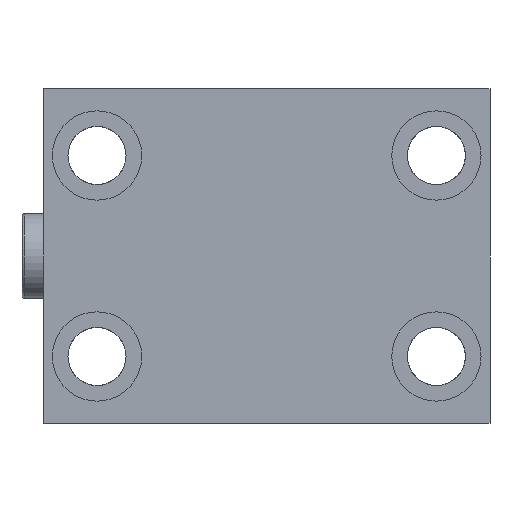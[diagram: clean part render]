
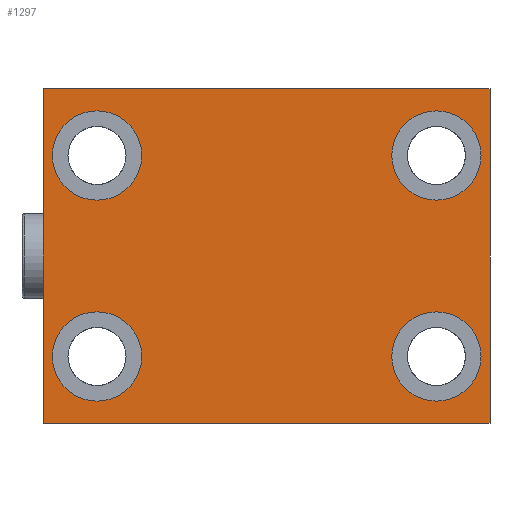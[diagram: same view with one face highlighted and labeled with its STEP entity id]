
A CAD part, front view. The second image highlights one B-rep face of the part: STEP entity #1297.
In plain terms, the highlighted planar face has unit normal (0, -1, 0).
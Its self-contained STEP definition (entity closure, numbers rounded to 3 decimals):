
#73 = AXIS2_PLACEMENT_3D ( 'NONE', #246, #2541, #2848 ) ;
#118 = LINE ( 'NONE', #2151, #1922 ) ;
#202 = CARTESIAN_POINT ( 'NONE',  ( 38., 0., 22.5 ) ) ;
#246 = CARTESIAN_POINT ( 'NONE',  ( -38., 0., 22.5 ) ) ;
#250 = EDGE_CURVE ( 'NONE', #3831, #2265, #998, .T. ) ;
#322 = DIRECTION ( 'NONE',  ( 0., 0., -1. ) ) ;
#365 = EDGE_LOOP ( 'NONE', ( #403, #888 ) ) ;
#379 = AXIS2_PLACEMENT_3D ( 'NONE', #3670, #3014, #2964 ) ;
#403 = ORIENTED_EDGE ( 'NONE', *, *, #1654, .F. ) ;
#440 = EDGE_CURVE ( 'NONE', #1388, #3574, #631, .T. ) ;
#485 = CIRCLE ( 'NONE', #2073, 10. ) ;
#563 = DIRECTION ( 'NONE',  ( 0., 0., -1. ) ) ;
#631 = CIRCLE ( 'NONE', #379, 10. ) ;
#704 = DIRECTION ( 'NONE',  ( 0., 0., 1. ) ) ;
#711 = VERTEX_POINT ( 'NONE', #2489 ) ;
#854 = CARTESIAN_POINT ( 'NONE',  ( 38., 0., -12.5 ) ) ;
#881 = CIRCLE ( 'NONE', #981, 10. ) ;
#883 = CARTESIAN_POINT ( 'NONE',  ( -38., 0., 22.5 ) ) ;
#888 = ORIENTED_EDGE ( 'NONE', *, *, #2045, .F. ) ;
#929 = DIRECTION ( 'NONE',  ( 0., -1., 0. ) ) ;
#977 = DIRECTION ( 'NONE',  ( 0., -1., 0. ) ) ;
#981 = AXIS2_PLACEMENT_3D ( 'NONE', #2942, #977, #3935 ) ;
#998 = LINE ( 'NONE', #2970, #3399 ) ;
#1001 = ORIENTED_EDGE ( 'NONE', *, *, #3362, .F. ) ;
#1160 = ORIENTED_EDGE ( 'NONE', *, *, #1723, .F. ) ;
#1202 = DIRECTION ( 'NONE',  ( 0., 1., 0. ) ) ;
#1297 = ADVANCED_FACE ( 'NONE', ( #3851, #2089, #2447, #3200, #4074 ), #2495, .F. ) ;
#1329 = CARTESIAN_POINT ( 'NONE',  ( 38., 0., -32.5 ) ) ;
#1355 = CIRCLE ( 'NONE', #73, 10. ) ;
#1359 = EDGE_CURVE ( 'NONE', #2520, #2197, #881, .T. ) ;
#1380 = VERTEX_POINT ( 'NONE', #1961 ) ;
#1388 = VERTEX_POINT ( 'NONE', #1329 ) ;
#1450 = VECTOR ( 'NONE', #704, 1000. ) ;
#1453 = EDGE_CURVE ( 'NONE', #4038, #711, #1666, .T. ) ;
#1484 = EDGE_LOOP ( 'NONE', ( #1001, #1160 ) ) ;
#1654 = EDGE_CURVE ( 'NONE', #2622, #1380, #1774, .T. ) ;
#1666 = LINE ( 'NONE', #2054, #1450 ) ;
#1709 = EDGE_CURVE ( 'NONE', #2265, #4038, #118, .T. ) ;
#1723 = EDGE_CURVE ( 'NONE', #4245, #2504, #485, .T. ) ;
#1774 = CIRCLE ( 'NONE', #3393, 10. ) ;
#1893 = ORIENTED_EDGE ( 'NONE', *, *, #1359, .F. ) ;
#1922 = VECTOR ( 'NONE', #3823, 1000. ) ;
#1943 = CARTESIAN_POINT ( 'NONE',  ( -38., 0., -32.5 ) ) ;
#1961 = CARTESIAN_POINT ( 'NONE',  ( -38., 0., 32.5 ) ) ;
#1984 = DIRECTION ( 'NONE',  ( 0., -1., 0. ) ) ;
#2045 = EDGE_CURVE ( 'NONE', #1380, #2622, #1355, .T. ) ;
#2054 = CARTESIAN_POINT ( 'NONE',  ( -50., 0., -37.5 ) ) ;
#2073 = AXIS2_PLACEMENT_3D ( 'NONE', #202, #2796, #2502 ) ;
#2079 = CIRCLE ( 'NONE', #3088, 10. ) ;
#2089 = FACE_BOUND ( 'NONE', #3501, .T. ) ;
#2113 = ORIENTED_EDGE ( 'NONE', *, *, #250, .F. ) ;
#2147 = EDGE_CURVE ( 'NONE', #711, #3831, #2395, .T. ) ;
#2151 = CARTESIAN_POINT ( 'NONE',  ( -50., 0., -37.5 ) ) ;
#2197 = VERTEX_POINT ( 'NONE', #1943 ) ;
#2228 = CIRCLE ( 'NONE', #2823, 10. ) ;
#2265 = VERTEX_POINT ( 'NONE', #3235 ) ;
#2319 = EDGE_LOOP ( 'NONE', ( #2113, #4057, #3264, #2496 ) ) ;
#2321 = AXIS2_PLACEMENT_3D ( 'NONE', #4141, #1202, #4091 ) ;
#2323 = CARTESIAN_POINT ( 'NONE',  ( -38., 0., -22.5 ) ) ;
#2327 = CARTESIAN_POINT ( 'NONE',  ( 38., 0., 12.5 ) ) ;
#2395 = LINE ( 'NONE', #3551, #3541 ) ;
#2447 = FACE_BOUND ( 'NONE', #1484, .T. ) ;
#2489 = CARTESIAN_POINT ( 'NONE',  ( -50., 0., 37.5 ) ) ;
#2495 = PLANE ( 'NONE',  #2321 ) ;
#2496 = ORIENTED_EDGE ( 'NONE', *, *, #1709, .F. ) ;
#2502 = DIRECTION ( 'NONE',  ( 0., 0., -1. ) ) ;
#2504 = VERTEX_POINT ( 'NONE', #2327 ) ;
#2520 = VERTEX_POINT ( 'NONE', #2700 ) ;
#2541 = DIRECTION ( 'NONE',  ( 0., -1., 0. ) ) ;
#2593 = DIRECTION ( 'NONE',  ( 1., 0., 0. ) ) ;
#2622 = VERTEX_POINT ( 'NONE', #3423 ) ;
#2670 = EDGE_LOOP ( 'NONE', ( #3369, #1893 ) ) ;
#2700 = CARTESIAN_POINT ( 'NONE',  ( -38., 0., -12.5 ) ) ;
#2796 = DIRECTION ( 'NONE',  ( 0., -1., 0. ) ) ;
#2823 = AXIS2_PLACEMENT_3D ( 'NONE', #3869, #929, #3229 ) ;
#2848 = DIRECTION ( 'NONE',  ( 0., 0., -1. ) ) ;
#2855 = DIRECTION ( 'NONE',  ( 0., -1., 0. ) ) ;
#2863 = EDGE_CURVE ( 'NONE', #2197, #2520, #3797, .T. ) ;
#2942 = CARTESIAN_POINT ( 'NONE',  ( -38., 0., -22.5 ) ) ;
#2964 = DIRECTION ( 'NONE',  ( 0., 0., -1. ) ) ;
#2970 = CARTESIAN_POINT ( 'NONE',  ( 50., 0., -37.5 ) ) ;
#3014 = DIRECTION ( 'NONE',  ( 0., -1., 0. ) ) ;
#3088 = AXIS2_PLACEMENT_3D ( 'NONE', #3224, #3899, #563 ) ;
#3200 = FACE_BOUND ( 'NONE', #365, .T. ) ;
#3224 = CARTESIAN_POINT ( 'NONE',  ( 38., 0., -22.5 ) ) ;
#3229 = DIRECTION ( 'NONE',  ( 0., 0., -1. ) ) ;
#3235 = CARTESIAN_POINT ( 'NONE',  ( 50., 0., -37.5 ) ) ;
#3264 = ORIENTED_EDGE ( 'NONE', *, *, #1453, .F. ) ;
#3273 = DIRECTION ( 'NONE',  ( 0., 0., -1. ) ) ;
#3318 = CARTESIAN_POINT ( 'NONE',  ( 50., 0., 37.5 ) ) ;
#3351 = ORIENTED_EDGE ( 'NONE', *, *, #440, .F. ) ;
#3362 = EDGE_CURVE ( 'NONE', #2504, #4245, #2228, .T. ) ;
#3369 = ORIENTED_EDGE ( 'NONE', *, *, #2863, .F. ) ;
#3393 = AXIS2_PLACEMENT_3D ( 'NONE', #883, #2855, #4111 ) ;
#3399 = VECTOR ( 'NONE', #322, 1000. ) ;
#3423 = CARTESIAN_POINT ( 'NONE',  ( -38., 0., 12.5 ) ) ;
#3501 = EDGE_LOOP ( 'NONE', ( #3351, #3640 ) ) ;
#3541 = VECTOR ( 'NONE', #2593, 1000. ) ;
#3551 = CARTESIAN_POINT ( 'NONE',  ( -50., 0., 37.5 ) ) ;
#3574 = VERTEX_POINT ( 'NONE', #854 ) ;
#3640 = ORIENTED_EDGE ( 'NONE', *, *, #3653, .F. ) ;
#3653 = EDGE_CURVE ( 'NONE', #3574, #1388, #2079, .T. ) ;
#3670 = CARTESIAN_POINT ( 'NONE',  ( 38., 0., -22.5 ) ) ;
#3797 = CIRCLE ( 'NONE', #3993, 10. ) ;
#3823 = DIRECTION ( 'NONE',  ( -1., 0., 0. ) ) ;
#3831 = VERTEX_POINT ( 'NONE', #3318 ) ;
#3845 = CARTESIAN_POINT ( 'NONE',  ( -50., 0., -37.5 ) ) ;
#3851 = FACE_BOUND ( 'NONE', #2670, .T. ) ;
#3869 = CARTESIAN_POINT ( 'NONE',  ( 38., 0., 22.5 ) ) ;
#3899 = DIRECTION ( 'NONE',  ( 0., -1., 0. ) ) ;
#3935 = DIRECTION ( 'NONE',  ( 0., 0., -1. ) ) ;
#3943 = CARTESIAN_POINT ( 'NONE',  ( 38., 0., 32.5 ) ) ;
#3993 = AXIS2_PLACEMENT_3D ( 'NONE', #2323, #1984, #3273 ) ;
#4038 = VERTEX_POINT ( 'NONE', #3845 ) ;
#4057 = ORIENTED_EDGE ( 'NONE', *, *, #2147, .F. ) ;
#4074 = FACE_OUTER_BOUND ( 'NONE', #2319, .T. ) ;
#4091 = DIRECTION ( 'NONE',  ( 0., 0., 1. ) ) ;
#4111 = DIRECTION ( 'NONE',  ( 0., 0., -1. ) ) ;
#4141 = CARTESIAN_POINT ( 'NONE',  ( 0., 0., 0. ) ) ;
#4245 = VERTEX_POINT ( 'NONE', #3943 ) ;
